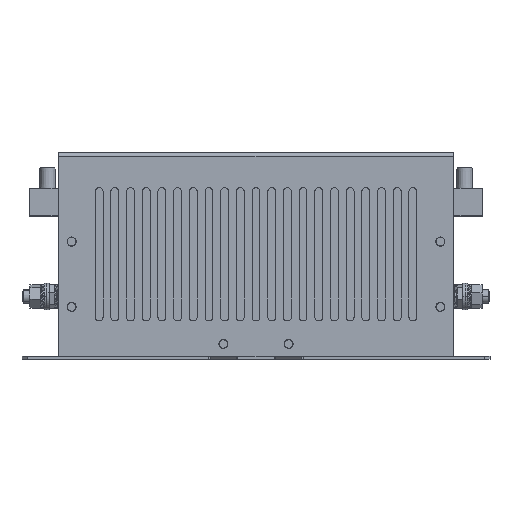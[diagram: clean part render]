
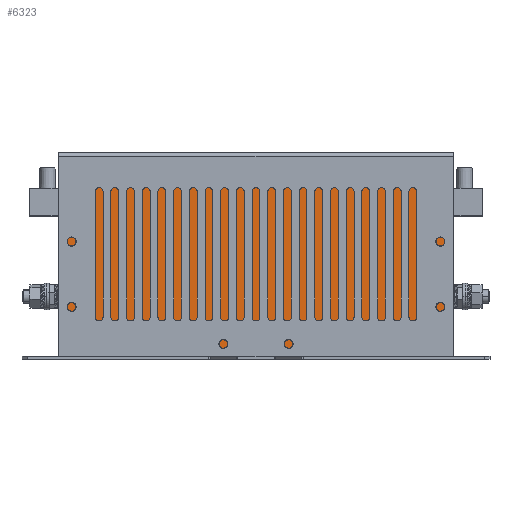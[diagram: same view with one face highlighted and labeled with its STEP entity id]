
A CAD part, top view. The second image highlights one B-rep face of the part: STEP entity #6323.
In plain terms, the highlighted planar face has unit normal (0, 0, 1).
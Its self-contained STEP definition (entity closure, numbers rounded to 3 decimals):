
#414 = DIRECTION ( 'NONE',  ( 0., 0., 1. ) ) ;
#980 = EDGE_LOOP ( 'NONE', ( #16028, #10579, #9023, #16584 ) ) ;
#1071 = CARTESIAN_POINT ( 'NONE',  ( 95.481, 1.7, -27.667 ) ) ;
#1155 = DIRECTION ( 'NONE',  ( -1., 0., 0. ) ) ;
#2190 = EDGE_CURVE ( 'NONE', #21510, #29525, #22773, .T. ) ;
#3806 = EDGE_CURVE ( 'NONE', #29525, #15327, #26477, .T. ) ;
#5276 = CARTESIAN_POINT ( 'NONE',  ( 93.781, 1.7, -27.667 ) ) ;
#6127 = DIRECTION ( 'NONE',  ( 0., 1., 0. ) ) ;
#6323 = ADVANCED_FACE ( 'NONE', ( #14483 ), #29765, .T. ) ;
#6937 = EDGE_CURVE ( 'NONE', #7929, #21510, #11051, .T. ) ;
#7929 = VERTEX_POINT ( 'NONE', #29389 ) ;
#9006 = CARTESIAN_POINT ( 'NONE',  ( 93.781, 77.6, -27.667 ) ) ;
#9023 = ORIENTED_EDGE ( 'NONE', *, *, #6937, .F. ) ;
#10579 = ORIENTED_EDGE ( 'NONE', *, *, #2190, .F. ) ;
#11051 = LINE ( 'NONE', #28753, #18981 ) ;
#11361 = DIRECTION ( 'NONE',  ( 1., 0., 0. ) ) ;
#12176 = VECTOR ( 'NONE', #18775, 1000. ) ;
#14483 = FACE_OUTER_BOUND ( 'NONE', #980, .T. ) ;
#15327 = VERTEX_POINT ( 'NONE', #5276 ) ;
#16028 = ORIENTED_EDGE ( 'NONE', *, *, #3806, .F. ) ;
#16225 = VECTOR ( 'NONE', #11361, 1000. ) ;
#16584 = ORIENTED_EDGE ( 'NONE', *, *, #22318, .F. ) ;
#17587 = CARTESIAN_POINT ( 'NONE',  ( -53.819, 75.663, -27.667 ) ) ;
#17620 = DIRECTION ( 'NONE',  ( 0., -1., 0. ) ) ;
#18775 = DIRECTION ( 'NONE',  ( 0., -1., 0. ) ) ;
#18981 = VECTOR ( 'NONE', #6127, 1000. ) ;
#21510 = VERTEX_POINT ( 'NONE', #17587 ) ;
#22318 = EDGE_CURVE ( 'NONE', #15327, #7929, #25111, .T. ) ;
#22773 = LINE ( 'NONE', #26127, #16225 ) ;
#24032 = CARTESIAN_POINT ( 'NONE',  ( 93.781, 75.663, -27.667 ) ) ;
#25111 = LINE ( 'NONE', #1071, #25175 ) ;
#25175 = VECTOR ( 'NONE', #1155, 1000. ) ;
#26127 = CARTESIAN_POINT ( 'NONE',  ( -53.819, 75.663, -27.667 ) ) ;
#26477 = LINE ( 'NONE', #9006, #12176 ) ;
#27373 = CARTESIAN_POINT ( 'NONE',  ( -55.519, 1.2, -27.667 ) ) ;
#28753 = CARTESIAN_POINT ( 'NONE',  ( -53.819, 1.7, -27.667 ) ) ;
#29389 = CARTESIAN_POINT ( 'NONE',  ( -53.819, 1.7, -27.667 ) ) ;
#29525 = VERTEX_POINT ( 'NONE', #24032 ) ;
#29765 = PLANE ( 'NONE',  #29840 ) ;
#29840 = AXIS2_PLACEMENT_3D ( 'NONE', #27373, #414, #17620 ) ;
